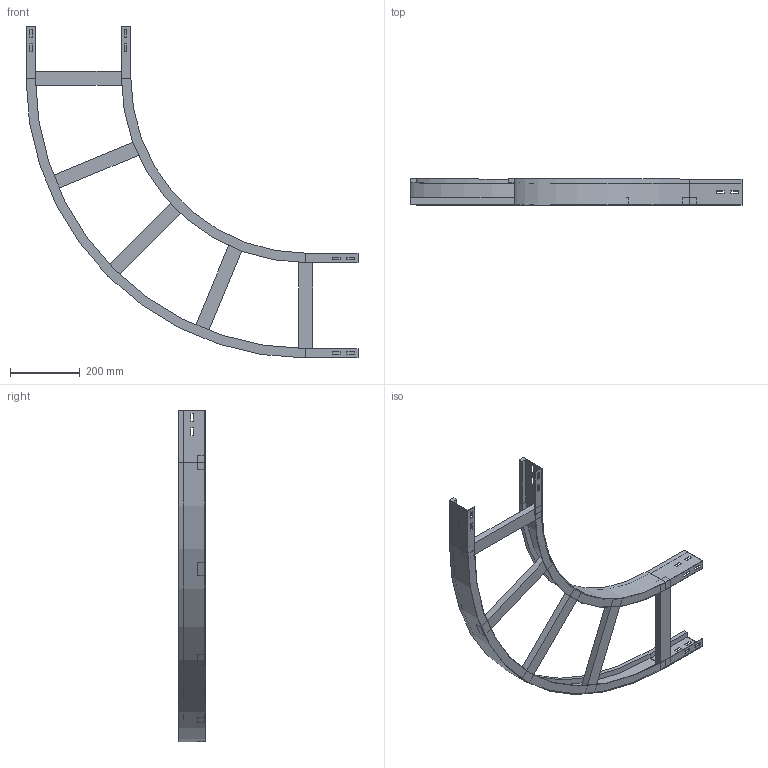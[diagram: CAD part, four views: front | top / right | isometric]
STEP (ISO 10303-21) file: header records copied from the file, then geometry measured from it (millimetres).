
FILE_DESCRIPTION (( 'STEP AP214' ), '1' );
FILE_NAME ('10B5C300.step', '2025-02-21T15:25:44', ( '' ), ( '' ), 'SwSTEP 2.0', 'SolidWorks 2023', '' );
FILE_SCHEMA (( 'AUTOMOTIVE_DESIGN' ));
Length unit declared in the file: millimetre
Products named in the file (4): A2_LONGH.ESTERNO 90°_H75_R500+300; A2_LONGH.INTERNO 90°_H75_R500; 10B5C300; TRAVERSINO_300
Assembly tree (7 placements, depth 2):
  10B5C300
    A2_LONGH.INTERNO 90°_H75_R500
    A2_LONGH.ESTERNO 90°_H75_R500+300
    TRAVERSINO_300  x5
Bounding box: 950 x 75 x 950 mm (x, y, z)
Volume: 2229549.8 mm3; surface area: 809196.3 mm2
Topology: 7 solids, 7 shells, 146 faces, 364 edges, 232 vertices
Faces by surface type: plane 138, cylinder 8
Entity records: 3837 total; most frequent: CARTESIAN_POINT 648, ORIENTED_EDGE 632, DIRECTION 596, EDGE_CURVE 316, LINE 300, VECTOR 300, VERTEX_POINT 200, EDGE_LOOP 154
